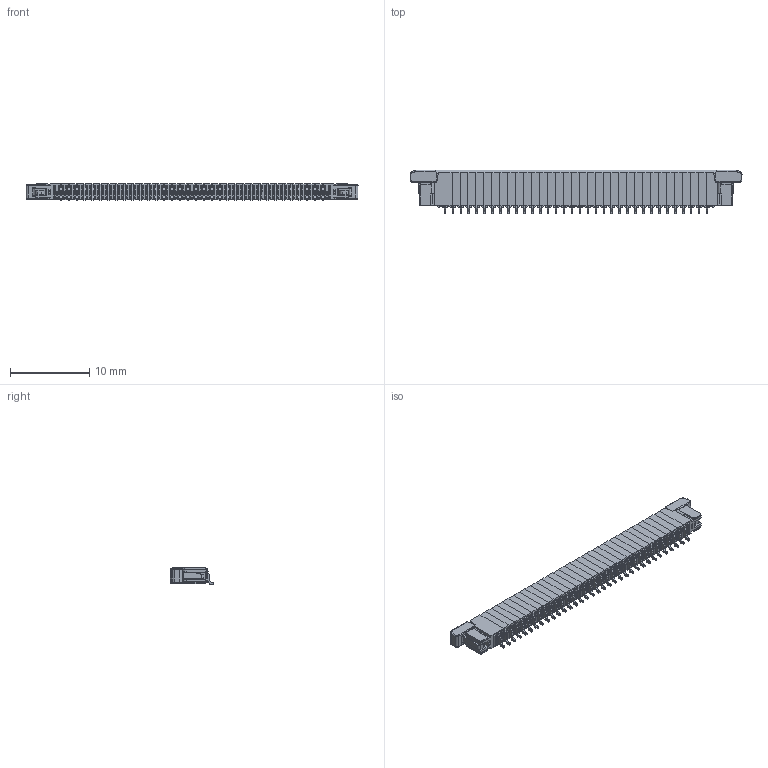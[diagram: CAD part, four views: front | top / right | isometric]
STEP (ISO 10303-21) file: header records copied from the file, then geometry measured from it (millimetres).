
FILE_DESCRIPTION((''),'2;1');
FILE_NAME('F52Q_34PIN_ASM','2020-05-25T',('FSA12-PC'),(''),'CREO PARAMETRIC BY PTC INC, 2014500','CREO PARAMETRIC BY PTC INC, 2014500','');
FILE_SCHEMA(('AUTOMOTIVE_DESIGN { 1 0 10303 214 1 1 1 1 }'));
Length unit declared in the file: millimetre
Products named in the file (4): F52Q_L; F52Q_M; F52Q_R; F52Q_34PIN_ASM
Assembly tree (34 placements, depth 2):
  F52Q_34PIN_ASM
    F52Q_L
    F52Q_M  x32
    F52Q_R
Bounding box: 41.8 x 5.5 x 2.05 mm (x, y, z)
Volume: 270.8 mm3; surface area: 1728.8 mm2
Topology: 34 solids, 34 shells, 5237 faces, 15113 edges, 9994 vertices
Faces by surface type: plane 4075, cylinder 1130, torus 16, bspline 16
Entity records: 26140 total; most frequent: CARTESIAN_POINT 5382, ORIENTED_EDGE 4418, DIRECTION 4070, EDGE_CURVE 2209, VECTOR 1688, LINE 1688, VERTEX_POINT 1438, AXIS2_PLACEMENT_3D 1191
